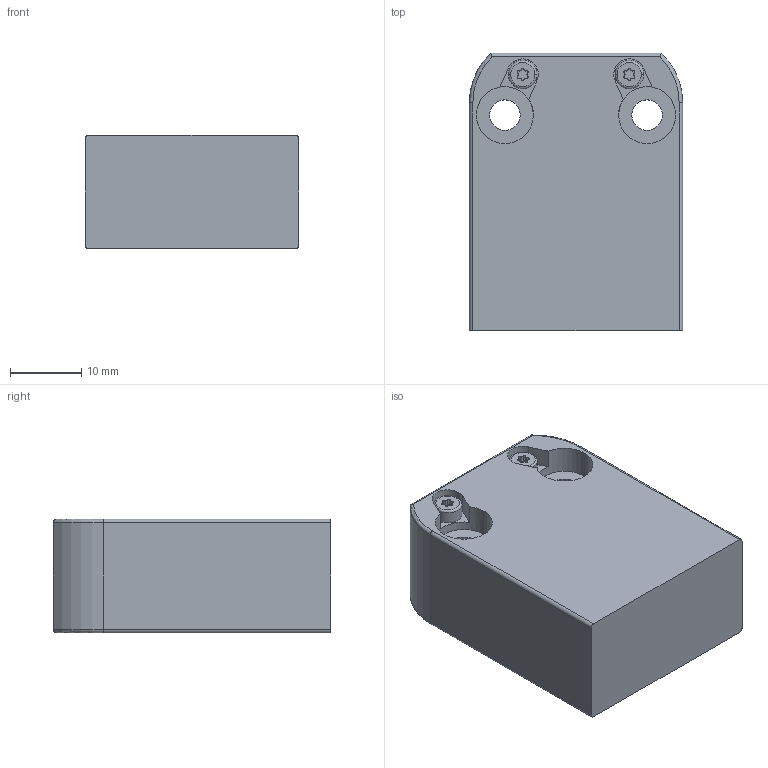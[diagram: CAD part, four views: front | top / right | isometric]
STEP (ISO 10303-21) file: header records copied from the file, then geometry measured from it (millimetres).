
FILE_DESCRIPTION (( 'STEP AP203' ), '1' );
FILE_NAME ('ZF_STEP_NA_xxx000.STEP', '2026-10-01T12:56:28', ( '' ), ( '' ), 'SwSTEP 2.0', 'SolidWorks 2023', '' );
FILE_SCHEMA (( 'CONFIG_CONTROL_DESIGN' ));
Length unit declared in the file: millimetre
Products named in the file (3): Pizzato_custodia_NA-NF; ZF_STEP_NA_xxx000; Pizzato_custodia_NA-NF_default
Assembly tree (2 placements, depth 3):
  ZF_STEP_NA_xxx000
    Pizzato_custodia_NA-NF
      Pizzato_custodia_NA-NF_default
Bounding box: 30 x 39 x 16 mm (x, y, z)
Volume: 17190.8 mm3; surface area: 5249.3 mm2
Topology: 1 solids, 1 shells, 391 faces, 1032 edges, 684 vertices
Faces by surface type: plane 212, bspline 107, cylinder 64, torus 8
Entity records: 15921 total; most frequent: CARTESIAN_POINT 6520, ORIENTED_EDGE 2064, DIRECTION 1538, EDGE_CURVE 1032, VERTEX_POINT 684, VECTOR 670, LINE 670, EDGE_LOOP 436
